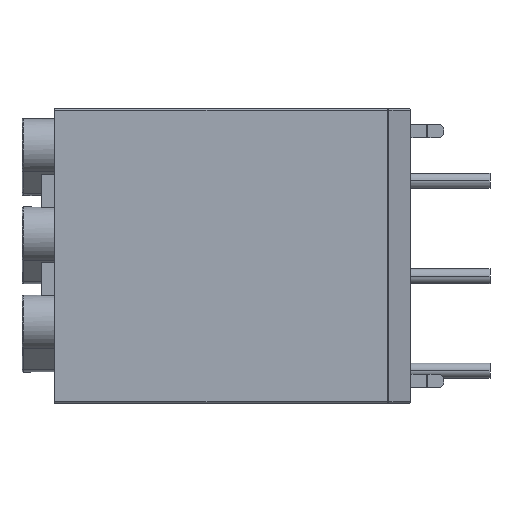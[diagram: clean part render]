
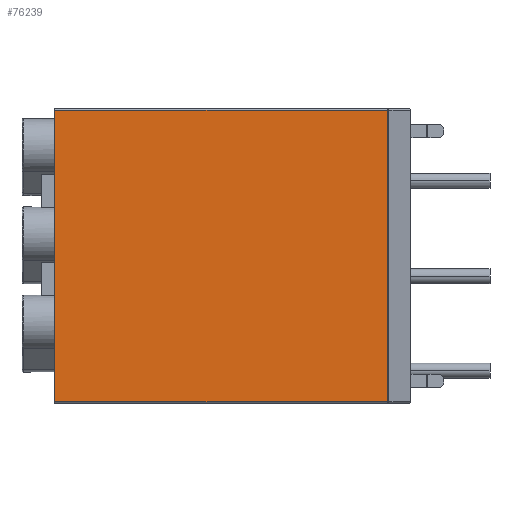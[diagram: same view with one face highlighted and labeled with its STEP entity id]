
A CAD part, front view. The second image highlights one B-rep face of the part: STEP entity #76239.
In plain terms, the highlighted planar face has unit normal (0, -1, 0).
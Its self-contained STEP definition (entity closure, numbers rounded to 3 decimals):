
#10084=DIRECTION('',(0.,0.,1.));
#10085=VECTOR('',#10084,44.6);
#10086=CARTESIAN_POINT('',(2.541,-23.332,
0.2));
#10087=LINE('',#10086,#10085);
#10102=DIRECTION('',(0.,0.,-1.));
#10103=VECTOR('',#10102,44.6);
#10104=CARTESIAN_POINT('',(53.441,-23.332,
44.8));
#10105=LINE('',#10104,#10103);
#10125=DIRECTION('',(-1.,0.,0.));
#10126=VECTOR('',#10125,50.9);
#10127=CARTESIAN_POINT('',(53.441,-23.332,
0.2));
#10128=LINE('',#10127,#10126);
#10168=DIRECTION('',(1.,0.,0.));
#10169=VECTOR('',#10168,50.9);
#10170=CARTESIAN_POINT('',(2.541,-23.332,
44.8));
#10171=LINE('',#10170,#10169);
#53143=CARTESIAN_POINT('',(2.541,-23.332,
0.2));
#53144=CARTESIAN_POINT('',(2.541,-23.332,
44.8));
#53145=VERTEX_POINT('',#53143);
#53146=VERTEX_POINT('',#53144);
#53147=CARTESIAN_POINT('',(53.441,-23.332,
44.8));
#53148=CARTESIAN_POINT('',(53.441,-23.332,
0.2));
#53149=VERTEX_POINT('',#53147);
#53150=VERTEX_POINT('',#53148);
#76225=CARTESIAN_POINT('',(51.641,-23.332,
0.5));
#76226=DIRECTION('',(0.,-1.,0.));
#76227=DIRECTION('',(-1.,0.,0.));
#76228=AXIS2_PLACEMENT_3D('',#76225,#76226,#76227);
#76229=PLANE('',#76228);
#76231=ORIENTED_EDGE('',*,*,#76230,.T.);
#76233=ORIENTED_EDGE('',*,*,#76232,.T.);
#76234=ORIENTED_EDGE('',*,*,#76206,.T.);
#76236=ORIENTED_EDGE('',*,*,#76235,.T.);
#76237=EDGE_LOOP('',(#76231,#76233,#76234,#76236));
#76238=FACE_OUTER_BOUND('',#76237,.F.);
#76239=ADVANCED_FACE('',(#76238),#76229,.T.);
#76206=EDGE_CURVE('',#53145,#53146,#10087,.T.);
#76230=EDGE_CURVE('',#53149,#53150,#10105,.T.);
#76232=EDGE_CURVE('',#53150,#53145,#10128,.T.);
#76235=EDGE_CURVE('',#53146,#53149,#10171,.T.);
